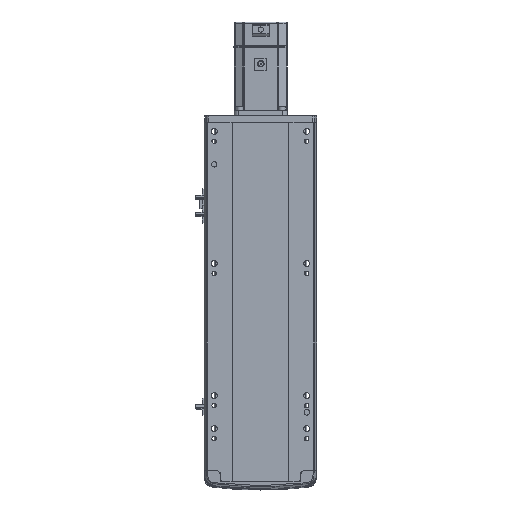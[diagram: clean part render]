
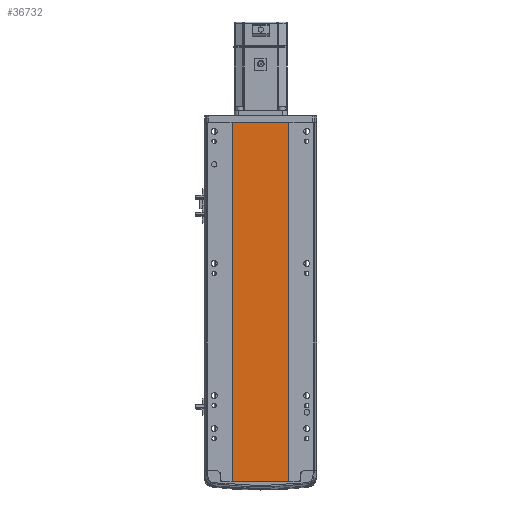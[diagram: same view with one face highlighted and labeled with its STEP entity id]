
A CAD part, front view. The second image highlights one B-rep face of the part: STEP entity #36732.
In plain terms, the highlighted planar face has unit normal (0, -1, 0).
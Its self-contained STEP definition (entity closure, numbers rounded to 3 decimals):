
#190 = LINE ( 'NONE', #549, #15796 ) ;
#311 = LINE ( 'NONE', #1953, #40769 ) ;
#549 = CARTESIAN_POINT ( 'NONE',  ( -41.791, 1., 543.5 ) ) ;
#1953 = CARTESIAN_POINT ( 'NONE',  ( 0., 0.999, 0. ) ) ;
#2120 = DIRECTION ( 'NONE',  ( 1., 0., 0. ) ) ;
#2267 = ORIENTED_EDGE ( 'NONE', *, *, #12740, .T. ) ;
#7319 = ORIENTED_EDGE ( 'NONE', *, *, #38324, .F. ) ;
#7610 = DIRECTION ( 'NONE',  ( 0., 0., -1. ) ) ;
#12740 = EDGE_CURVE ( 'NONE', #51401, #37240, #311, .T. ) ;
#15441 = CARTESIAN_POINT ( 'NONE',  ( 41.793, 0.998, 543.5 ) ) ;
#15565 = FACE_OUTER_BOUND ( 'NONE', #41292, .T. ) ;
#15796 = VECTOR ( 'NONE', #20011, 1000. ) ;
#16204 = EDGE_CURVE ( 'NONE', #19469, #51401, #190, .T. ) ;
#17036 = EDGE_CURVE ( 'NONE', #22062, #37240, #35562, .T. ) ;
#18480 = CARTESIAN_POINT ( 'NONE',  ( 41.793, 0.998, 0. ) ) ;
#19469 = VERTEX_POINT ( 'NONE', #48465 ) ;
#19919 = CARTESIAN_POINT ( 'NONE',  ( -41.791, 1., 0. ) ) ;
#20011 = DIRECTION ( 'NONE',  ( 0., 0., -1. ) ) ;
#21092 = DIRECTION ( 'NONE',  ( -1., 0., 0. ) ) ;
#21611 = DIRECTION ( 'NONE',  ( 0., 1., 0. ) ) ;
#22062 = VERTEX_POINT ( 'NONE', #22379 ) ;
#22232 = LINE ( 'NONE', #44255, #48910 ) ;
#22379 = CARTESIAN_POINT ( 'NONE',  ( 41.793, 0.998, 543.5 ) ) ;
#22549 = ORIENTED_EDGE ( 'NONE', *, *, #16204, .T. ) ;
#24612 = DIRECTION ( 'NONE',  ( 1., 0., 0. ) ) ;
#25260 = CARTESIAN_POINT ( 'NONE',  ( 0., 0.999, 543.5 ) ) ;
#27475 = VECTOR ( 'NONE', #7610, 1000. ) ;
#31759 = ORIENTED_EDGE ( 'NONE', *, *, #17036, .F. ) ;
#35562 = LINE ( 'NONE', #15441, #27475 ) ;
#36732 = ADVANCED_FACE ( 'NONE', ( #15565 ), #36898, .F. ) ;
#36898 = PLANE ( 'NONE',  #42862 ) ;
#37240 = VERTEX_POINT ( 'NONE', #18480 ) ;
#38324 = EDGE_CURVE ( 'NONE', #19469, #22062, #22232, .T. ) ;
#40769 = VECTOR ( 'NONE', #2120, 1000. ) ;
#41292 = EDGE_LOOP ( 'NONE', ( #2267, #31759, #7319, #22549 ) ) ;
#42862 = AXIS2_PLACEMENT_3D ( 'NONE', #25260, #21611, #21092 ) ;
#44255 = CARTESIAN_POINT ( 'NONE',  ( 0., 0.999, 543.5 ) ) ;
#48465 = CARTESIAN_POINT ( 'NONE',  ( -41.791, 1., 543.5 ) ) ;
#48910 = VECTOR ( 'NONE', #24612, 1000. ) ;
#51401 = VERTEX_POINT ( 'NONE', #19919 ) ;
